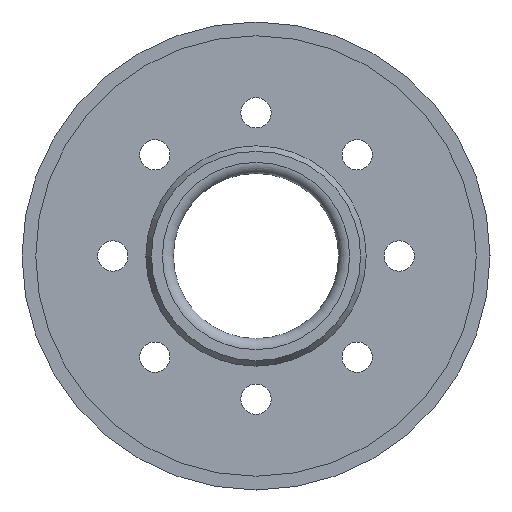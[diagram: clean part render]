
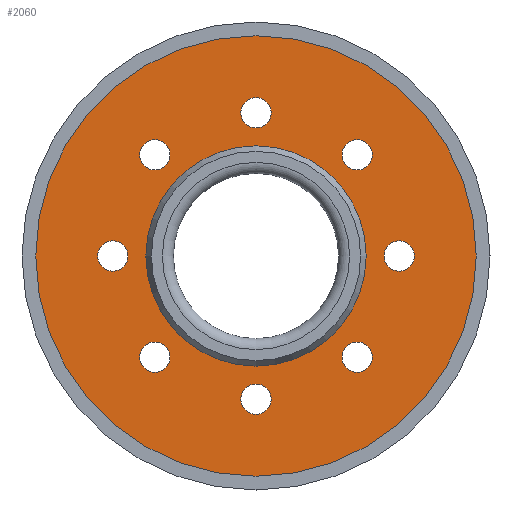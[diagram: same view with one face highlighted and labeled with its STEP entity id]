
A CAD part, front view. The second image highlights one B-rep face of the part: STEP entity #2060.
In plain terms, the highlighted planar face has unit normal (0, -1, 0).
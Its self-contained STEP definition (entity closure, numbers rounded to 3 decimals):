
#12 = DIRECTION ( 'NONE',  ( 0., -1., 0. ) ) ;
#27 = CARTESIAN_POINT ( 'NONE',  ( -18.385, -23., 18.385 ) ) ;
#32 = CARTESIAN_POINT ( 'NONE',  ( 0., -23., 0. ) ) ;
#65 = EDGE_CURVE ( 'NONE', #1274, #1274, #2874, .T. ) ;
#95 = CARTESIAN_POINT ( 'NONE',  ( 26., -23., -2.75 ) ) ;
#145 = VERTEX_POINT ( 'NONE', #2110 ) ;
#154 = AXIS2_PLACEMENT_3D ( 'NONE', #849, #816, #2805 ) ;
#195 = FACE_BOUND ( 'NONE', #1765, .T. ) ;
#234 = DIRECTION ( 'NONE',  ( 0., -1., 0. ) ) ;
#257 = CIRCLE ( 'NONE', #2924, 2.75 ) ;
#304 = CARTESIAN_POINT ( 'NONE',  ( 18.385, -23., 15.635 ) ) ;
#353 = CARTESIAN_POINT ( 'NONE',  ( 0., -23., 40. ) ) ;
#388 = VERTEX_POINT ( 'NONE', #419 ) ;
#419 = CARTESIAN_POINT ( 'NONE',  ( 0., -23., -28.75 ) ) ;
#433 = CARTESIAN_POINT ( 'NONE',  ( 18.385, -23., -21.135 ) ) ;
#463 = VERTEX_POINT ( 'NONE', #433 ) ;
#492 = VERTEX_POINT ( 'NONE', #1224 ) ;
#500 = FACE_BOUND ( 'NONE', #2318, .T. ) ;
#510 = DIRECTION ( 'NONE',  ( 0., 0., -1. ) ) ;
#541 = DIRECTION ( 'NONE',  ( 0., -1., 0. ) ) ;
#545 = EDGE_LOOP ( 'NONE', ( #2073 ) ) ;
#561 = DIRECTION ( 'NONE',  ( 0., -1., 0. ) ) ;
#566 = CIRCLE ( 'NONE', #1204, 2.75 ) ;
#597 = ORIENTED_EDGE ( 'NONE', *, *, #1527, .F. ) ;
#615 = CIRCLE ( 'NONE', #1617, 40. ) ;
#670 = ORIENTED_EDGE ( 'NONE', *, *, #65, .F. ) ;
#728 = DIRECTION ( 'NONE',  ( 0., 0., -1. ) ) ;
#729 = AXIS2_PLACEMENT_3D ( 'NONE', #2920, #234, #1209 ) ;
#764 = EDGE_LOOP ( 'NONE', ( #1094 ) ) ;
#765 = DIRECTION ( 'NONE',  ( 0., 0., -1. ) ) ;
#775 = CIRCLE ( 'NONE', #154, 2.75 ) ;
#816 = DIRECTION ( 'NONE',  ( 0., -1., 0. ) ) ;
#818 = ORIENTED_EDGE ( 'NONE', *, *, #2532, .F. ) ;
#849 = CARTESIAN_POINT ( 'NONE',  ( -26., -23., 0. ) ) ;
#857 = DIRECTION ( 'NONE',  ( 0., 1., 0. ) ) ;
#943 = CARTESIAN_POINT ( 'NONE',  ( 26., -23., 0. ) ) ;
#980 = FACE_BOUND ( 'NONE', #545, .T. ) ;
#990 = CARTESIAN_POINT ( 'NONE',  ( 0., -23., 23.25 ) ) ;
#991 = AXIS2_PLACEMENT_3D ( 'NONE', #2937, #1925, #1177 ) ;
#1023 = EDGE_CURVE ( 'NONE', #1341, #1341, #2965, .T. ) ;
#1029 = DIRECTION ( 'NONE',  ( 0., 0., 1. ) ) ;
#1035 = AXIS2_PLACEMENT_3D ( 'NONE', #2212, #2492, #2958 ) ;
#1094 = ORIENTED_EDGE ( 'NONE', *, *, #1023, .F. ) ;
#1113 = ORIENTED_EDGE ( 'NONE', *, *, #1708, .F. ) ;
#1177 = DIRECTION ( 'NONE',  ( 0., 0., -1. ) ) ;
#1196 = AXIS2_PLACEMENT_3D ( 'NONE', #943, #1206, #1469 ) ;
#1204 = AXIS2_PLACEMENT_3D ( 'NONE', #2788, #561, #1807 ) ;
#1206 = DIRECTION ( 'NONE',  ( 0., -1., 0. ) ) ;
#1209 = DIRECTION ( 'NONE',  ( 0., 0., -1. ) ) ;
#1211 = VERTEX_POINT ( 'NONE', #1500 ) ;
#1224 = CARTESIAN_POINT ( 'NONE',  ( -18.385, -23., 15.635 ) ) ;
#1274 = VERTEX_POINT ( 'NONE', #304 ) ;
#1341 = VERTEX_POINT ( 'NONE', #95 ) ;
#1448 = FACE_BOUND ( 'NONE', #2743, .T. ) ;
#1469 = DIRECTION ( 'NONE',  ( 0., 0., -1. ) ) ;
#1494 = FACE_BOUND ( 'NONE', #1850, .T. ) ;
#1500 = CARTESIAN_POINT ( 'NONE',  ( -18.385, -23., -21.135 ) ) ;
#1527 = EDGE_CURVE ( 'NONE', #388, #388, #1769, .T. ) ;
#1617 = AXIS2_PLACEMENT_3D ( 'NONE', #2538, #857, #2043 ) ;
#1641 = VERTEX_POINT ( 'NONE', #353 ) ;
#1708 = EDGE_CURVE ( 'NONE', #1641, #1641, #615, .T. ) ;
#1725 = CIRCLE ( 'NONE', #729, 2.75 ) ;
#1737 = FACE_BOUND ( 'NONE', #3024, .T. ) ;
#1765 = EDGE_LOOP ( 'NONE', ( #597 ) ) ;
#1769 = CIRCLE ( 'NONE', #1035, 2.75 ) ;
#1774 = AXIS2_PLACEMENT_3D ( 'NONE', #32, #2793, #1029 ) ;
#1784 = ORIENTED_EDGE ( 'NONE', *, *, #2147, .F. ) ;
#1807 = DIRECTION ( 'NONE',  ( 0., 0., -1. ) ) ;
#1847 = EDGE_LOOP ( 'NONE', ( #1784 ) ) ;
#1850 = EDGE_LOOP ( 'NONE', ( #2756 ) ) ;
#1876 = CIRCLE ( 'NONE', #1774, 20. ) ;
#1925 = DIRECTION ( 'NONE',  ( 0., -1., 0. ) ) ;
#1983 = PLANE ( 'NONE',  #3184 ) ;
#2043 = DIRECTION ( 'NONE',  ( 0., 0., 1. ) ) ;
#2060 = ADVANCED_FACE ( 'NONE', ( #500, #2430, #1737, #1494, #1448, #2729, #2254, #195, #980, #3226 ), #1983, .T. ) ;
#2073 = ORIENTED_EDGE ( 'NONE', *, *, #2081, .T. ) ;
#2081 = EDGE_CURVE ( 'NONE', #2349, #2349, #1876, .T. ) ;
#2110 = CARTESIAN_POINT ( 'NONE',  ( -26., -23., -2.75 ) ) ;
#2147 = EDGE_CURVE ( 'NONE', #145, #145, #775, .T. ) ;
#2212 = CARTESIAN_POINT ( 'NONE',  ( 0., -23., -26. ) ) ;
#2244 = CIRCLE ( 'NONE', #991, 2.75 ) ;
#2254 = FACE_BOUND ( 'NONE', #2959, .T. ) ;
#2318 = EDGE_LOOP ( 'NONE', ( #2366 ) ) ;
#2349 = VERTEX_POINT ( 'NONE', #2662 ) ;
#2366 = ORIENTED_EDGE ( 'NONE', *, *, #2817, .F. ) ;
#2430 = FACE_BOUND ( 'NONE', #764, .T. ) ;
#2473 = EDGE_CURVE ( 'NONE', #1211, #1211, #566, .T. ) ;
#2479 = ORIENTED_EDGE ( 'NONE', *, *, #2473, .F. ) ;
#2492 = DIRECTION ( 'NONE',  ( 0., -1., 0. ) ) ;
#2532 = EDGE_CURVE ( 'NONE', #492, #492, #257, .T. ) ;
#2538 = CARTESIAN_POINT ( 'NONE',  ( 0., -23., 0. ) ) ;
#2662 = CARTESIAN_POINT ( 'NONE',  ( 0., -23., 20. ) ) ;
#2729 = FACE_BOUND ( 'NONE', #1847, .T. ) ;
#2734 = EDGE_CURVE ( 'NONE', #2968, #2968, #2244, .T. ) ;
#2743 = EDGE_LOOP ( 'NONE', ( #818 ) ) ;
#2744 = DIRECTION ( 'NONE',  ( 0., -1., 0. ) ) ;
#2756 = ORIENTED_EDGE ( 'NONE', *, *, #2734, .F. ) ;
#2771 = CARTESIAN_POINT ( 'NONE',  ( 18.385, -23., 18.385 ) ) ;
#2788 = CARTESIAN_POINT ( 'NONE',  ( -18.385, -23., -18.385 ) ) ;
#2792 = EDGE_LOOP ( 'NONE', ( #1113 ) ) ;
#2793 = DIRECTION ( 'NONE',  ( 0., 1., 0. ) ) ;
#2805 = DIRECTION ( 'NONE',  ( 0., 0., -1. ) ) ;
#2817 = EDGE_CURVE ( 'NONE', #463, #463, #1725, .T. ) ;
#2874 = CIRCLE ( 'NONE', #2979, 2.75 ) ;
#2920 = CARTESIAN_POINT ( 'NONE',  ( 18.385, -23., -18.385 ) ) ;
#2924 = AXIS2_PLACEMENT_3D ( 'NONE', #27, #541, #510 ) ;
#2937 = CARTESIAN_POINT ( 'NONE',  ( 0., -23., 26. ) ) ;
#2958 = DIRECTION ( 'NONE',  ( 0., 0., -1. ) ) ;
#2959 = EDGE_LOOP ( 'NONE', ( #2479 ) ) ;
#2965 = CIRCLE ( 'NONE', #1196, 2.75 ) ;
#2968 = VERTEX_POINT ( 'NONE', #990 ) ;
#2979 = AXIS2_PLACEMENT_3D ( 'NONE', #2771, #12, #728 ) ;
#3024 = EDGE_LOOP ( 'NONE', ( #670 ) ) ;
#3184 = AXIS2_PLACEMENT_3D ( 'NONE', #3196, #2744, #765 ) ;
#3196 = CARTESIAN_POINT ( 'NONE',  ( -40., -23., 0. ) ) ;
#3226 = FACE_OUTER_BOUND ( 'NONE', #2792, .T. ) ;
